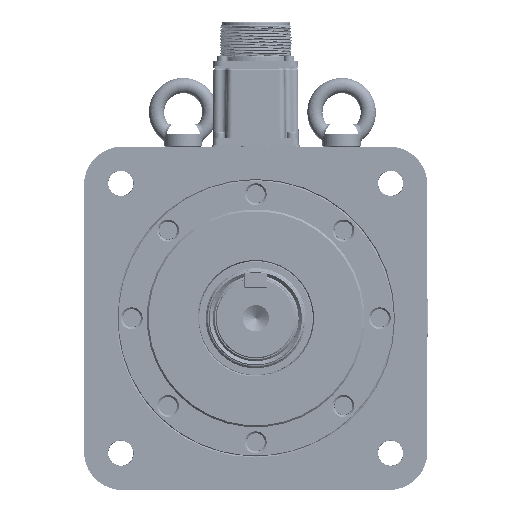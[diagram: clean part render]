
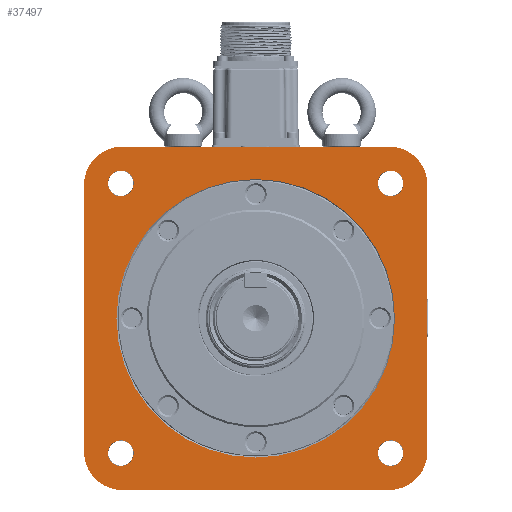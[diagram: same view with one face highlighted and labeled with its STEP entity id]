
A CAD part, front view. The second image highlights one B-rep face of the part: STEP entity #37497.
In plain terms, the highlighted planar face has unit normal (0, -1, 0).
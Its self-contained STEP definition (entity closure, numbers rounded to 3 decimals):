
#2858=LINE('',#69429,#5470);
#2942=LINE('',#73564,#5554);
#2947=LINE('',#73572,#5559);
#2952=LINE('',#73580,#5564);
#5470=VECTOR('',#48281,1000.);
#5554=VECTOR('',#49203,1000.);
#5559=VECTOR('',#49210,1000.);
#5564=VECTOR('',#49217,1000.);
#8066=PLANE('',#41069);
#15102=ORIENTED_EDGE('',*,*,#21885,.T.);
#15103=ORIENTED_EDGE('',*,*,#21797,.F.);
#15104=ORIENTED_EDGE('',*,*,#21806,.F.);
#15105=ORIENTED_EDGE('',*,*,#21829,.F.);
#15106=ORIENTED_EDGE('',*,*,#21819,.F.);
#15107=ORIENTED_EDGE('',*,*,#21855,.T.);
#15108=ORIENTED_EDGE('',*,*,#21859,.T.);
#15109=ORIENTED_EDGE('',*,*,#21850,.T.);
#15110=ORIENTED_EDGE('',*,*,#21860,.T.);
#15111=ORIENTED_EDGE('',*,*,#21845,.T.);
#15112=ORIENTED_EDGE('',*,*,#21861,.T.);
#15113=ORIENTED_EDGE('',*,*,#21373,.T.);
#15114=ORIENTED_EDGE('',*,*,#21858,.T.);
#21373=EDGE_CURVE('',#25614,#25613,#2858,.T.);
#21797=EDGE_CURVE('',#25894,#25894,#28160,.F.);
#21806=EDGE_CURVE('',#25902,#25902,#28166,.F.);
#21819=EDGE_CURVE('',#25914,#25914,#28176,.F.);
#21829=EDGE_CURVE('',#25924,#25924,#28182,.F.);
#21845=EDGE_CURVE('',#25935,#25934,#2942,.T.);
#21850=EDGE_CURVE('',#25937,#25936,#2947,.T.);
#21855=EDGE_CURVE('',#25939,#25938,#2952,.T.);
#21858=EDGE_CURVE('',#25613,#25939,#28188,.F.);
#21859=EDGE_CURVE('',#25938,#25937,#28189,.F.);
#21860=EDGE_CURVE('',#25936,#25935,#28190,.F.);
#21861=EDGE_CURVE('',#25934,#25614,#28191,.F.);
#21885=EDGE_CURVE('',#25951,#25951,#28203,.T.);
#25613=VERTEX_POINT('',#69428);
#25614=VERTEX_POINT('',#69430);
#25894=VERTEX_POINT('',#73461);
#25902=VERTEX_POINT('',#73480);
#25914=VERTEX_POINT('',#73511);
#25924=VERTEX_POINT('',#73533);
#25934=VERTEX_POINT('',#73563);
#25935=VERTEX_POINT('',#73565);
#25936=VERTEX_POINT('',#73571);
#25937=VERTEX_POINT('',#73573);
#25938=VERTEX_POINT('',#73579);
#25939=VERTEX_POINT('',#73581);
#25951=VERTEX_POINT('',#73647);
#28160=CIRCLE('',#40986,6.745);
#28166=CIRCLE('',#40994,6.745);
#28176=CIRCLE('',#41010,6.745);
#28182=CIRCLE('',#41018,6.745);
#28188=CIRCLE('',#41032,20.);
#28189=CIRCLE('',#41034,20.);
#28190=CIRCLE('',#41036,20.);
#28191=CIRCLE('',#41038,20.);
#28203=CIRCLE('',#41070,73.);
#30833=EDGE_LOOP('',(#15102));
#30834=EDGE_LOOP('',(#15103));
#30835=EDGE_LOOP('',(#15104));
#30836=EDGE_LOOP('',(#15105));
#30837=EDGE_LOOP('',(#15106));
#30838=EDGE_LOOP('',(#15107,#15108,#15109,#15110,#15111,#15112,#15113,#15114));
#34156=FACE_BOUND('',#30833,.T.);
#34157=FACE_BOUND('',#30834,.T.);
#34158=FACE_BOUND('',#30835,.T.);
#34159=FACE_BOUND('',#30836,.T.);
#34160=FACE_BOUND('',#30837,.T.);
#34161=FACE_BOUND('',#30838,.T.);
#37497=ADVANCED_FACE('',(#34156,#34157,#34158,#34159,#34160,#34161),#8066,
 .F.);
#40986=AXIS2_PLACEMENT_3D('',#73460,#49097,#49098);
#40994=AXIS2_PLACEMENT_3D('',#73479,#49116,#49117);
#41010=AXIS2_PLACEMENT_3D('',#73510,#49151,#49152);
#41018=AXIS2_PLACEMENT_3D('',#73532,#49171,#49172);
#41032=AXIS2_PLACEMENT_3D('',#73585,#49222,#49223);
#41034=AXIS2_PLACEMENT_3D('',#73587,#49226,#49227);
#41036=AXIS2_PLACEMENT_3D('',#73589,#49230,#49231);
#41038=AXIS2_PLACEMENT_3D('',#73591,#49234,#49235);
#41069=AXIS2_PLACEMENT_3D('',#73645,#49308,#49309);
#41070=AXIS2_PLACEMENT_3D('',#73646,#49310,#49311);
#48281=DIRECTION('',(-1.,0.,0.));
#49097=DIRECTION('',(0.,1.,0.));
#49098=DIRECTION('',(0.,0.,1.));
#49116=DIRECTION('',(0.,1.,0.));
#49117=DIRECTION('',(0.,0.,1.));
#49151=DIRECTION('',(0.,1.,0.));
#49152=DIRECTION('',(0.,0.,1.));
#49171=DIRECTION('',(0.,1.,0.));
#49172=DIRECTION('',(0.,0.,1.));
#49203=DIRECTION('',(0.,0.,1.));
#49210=DIRECTION('',(1.,0.,0.));
#49217=DIRECTION('',(0.,0.,-1.));
#49222=DIRECTION('',(0.,1.,0.));
#49223=DIRECTION('',(0.,0.,1.));
#49226=DIRECTION('',(0.,1.,0.));
#49227=DIRECTION('',(0.,0.,1.));
#49230=DIRECTION('',(0.,1.,0.));
#49231=DIRECTION('',(0.,0.,1.));
#49234=DIRECTION('',(0.,1.,0.));
#49235=DIRECTION('',(0.,0.,1.));
#49308=DIRECTION('',(0.,1.,0.));
#49309=DIRECTION('',(0.,0.,1.));
#49310=DIRECTION('',(0.,1.,0.));
#49311=DIRECTION('',(0.,0.,1.));
#69428=CARTESIAN_POINT('',(-70.,1.3,90.));
#69429=CARTESIAN_POINT('',(90.,1.3,90.));
#69430=CARTESIAN_POINT('',(70.,1.3,90.));
#73460=CARTESIAN_POINT('',(-70.711,1.3,70.711));
#73461=CARTESIAN_POINT('',(-70.711,1.3,77.455));
#73479=CARTESIAN_POINT('',(70.711,1.3,70.711));
#73480=CARTESIAN_POINT('',(70.711,1.3,77.455));
#73510=CARTESIAN_POINT('',(-70.711,1.3,-70.711));
#73511=CARTESIAN_POINT('',(-70.711,1.3,-63.966));
#73532=CARTESIAN_POINT('',(70.711,1.3,-70.711));
#73533=CARTESIAN_POINT('',(70.711,1.3,-63.966));
#73563=CARTESIAN_POINT('',(90.,1.3,70.));
#73564=CARTESIAN_POINT('',(90.,1.3,-90.));
#73565=CARTESIAN_POINT('',(90.,1.3,-70.));
#73571=CARTESIAN_POINT('',(70.,1.3,-90.));
#73572=CARTESIAN_POINT('',(-90.,1.3,-90.));
#73573=CARTESIAN_POINT('',(-70.,1.3,-90.));
#73579=CARTESIAN_POINT('',(-90.,1.3,-70.));
#73580=CARTESIAN_POINT('',(-90.,1.3,90.));
#73581=CARTESIAN_POINT('',(-90.,1.3,70.));
#73585=CARTESIAN_POINT('',(-70.,1.3,70.));
#73587=CARTESIAN_POINT('',(-70.,1.3,-70.));
#73589=CARTESIAN_POINT('',(70.,1.3,-70.));
#73591=CARTESIAN_POINT('',(70.,1.3,70.));
#73645=CARTESIAN_POINT('',(0.,1.3,72.5));
#73646=CARTESIAN_POINT('',(0.,1.3,0.));
#73647=CARTESIAN_POINT('',(0.,1.3,73.));
